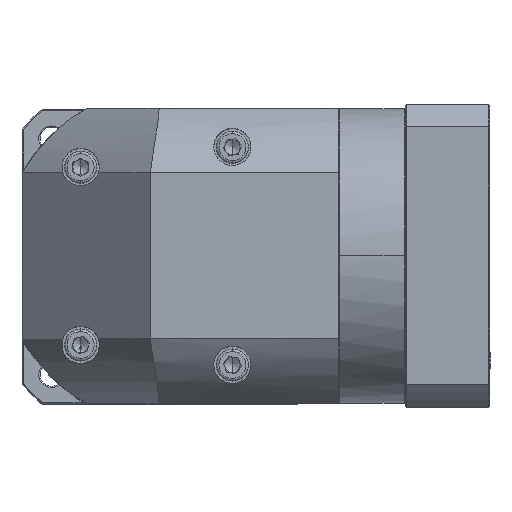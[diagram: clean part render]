
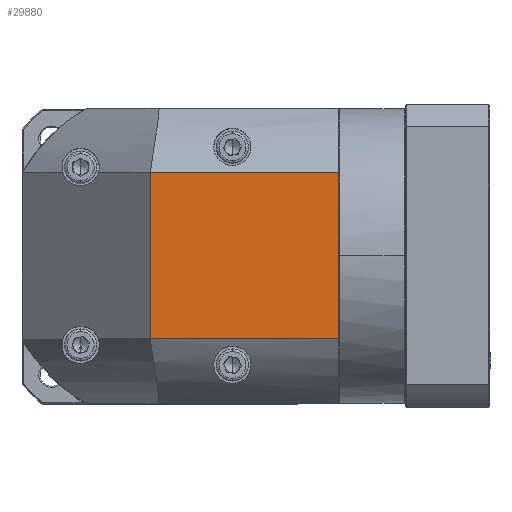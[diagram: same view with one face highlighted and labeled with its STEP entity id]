
A CAD part, top view. The second image highlights one B-rep face of the part: STEP entity #29880.
In plain terms, the highlighted planar face has unit normal (0, 0, 1).
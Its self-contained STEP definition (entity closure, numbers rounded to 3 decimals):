
#550 = EDGE_CURVE ( 'NONE', #39956, #18029, #741, .T. ) ;
#741 = LINE ( 'NONE', #135947, #110922 ) ;
#2988 = ORIENTED_EDGE ( 'NONE', *, *, #53925, .F. ) ;
#5327 = EDGE_CURVE ( 'NONE', #18029, #65248, #33939, .T. ) ;
#5473 = VECTOR ( 'NONE', #71452, 1000. ) ;
#6897 = CARTESIAN_POINT ( 'NONE',  ( -171.735, 18.22, 309.502 ) ) ;
#8352 = CARTESIAN_POINT ( 'NONE',  ( -164.235, -39.28, 309.502 ) ) ;
#12082 = VECTOR ( 'NONE', #30438, 1000. ) ;
#18029 = VERTEX_POINT ( 'NONE', #80682 ) ;
#19606 = PLANE ( 'NONE',  #123242 ) ;
#22136 = LINE ( 'NONE', #135872, #12082 ) ;
#29880 = ADVANCED_FACE ( 'NONE', ( #45834 ), #19606, .F. ) ;
#30438 = DIRECTION ( 'NONE',  ( -1., 0., 0. ) ) ;
#33939 = LINE ( 'NONE', #135397, #5473 ) ;
#39956 = VERTEX_POINT ( 'NONE', #52867 ) ;
#45834 = FACE_OUTER_BOUND ( 'NONE', #87030, .T. ) ;
#52112 = ORIENTED_EDGE ( 'NONE', *, *, #550, .F. ) ;
#52867 = CARTESIAN_POINT ( 'NONE',  ( -171.735, -6.88, 309.502 ) ) ;
#53925 = EDGE_CURVE ( 'NONE', #126279, #39956, #114397, .T. ) ;
#54915 = EDGE_CURVE ( 'NONE', #65248, #126279, #22136, .T. ) ;
#63732 = CARTESIAN_POINT ( 'NONE',  ( -98.335, -71.68, 309.502 ) ) ;
#65248 = VERTEX_POINT ( 'NONE', #63732 ) ;
#71452 = DIRECTION ( 'NONE',  ( 0., -1., 0. ) ) ;
#80682 = CARTESIAN_POINT ( 'NONE',  ( -98.335, -6.88, 309.502 ) ) ;
#81522 = DIRECTION ( 'NONE',  ( 0., 1., 0. ) ) ;
#87030 = EDGE_LOOP ( 'NONE', ( #52112, #2988, #125123, #137546 ) ) ;
#92652 = VECTOR ( 'NONE', #81522, 1000. ) ;
#107262 = DIRECTION ( 'NONE',  ( 0., 0., -1. ) ) ;
#107703 = CARTESIAN_POINT ( 'NONE',  ( -171.735, -71.68, 309.502 ) ) ;
#110922 = VECTOR ( 'NONE', #124754, 1000. ) ;
#114397 = LINE ( 'NONE', #6897, #92652 ) ;
#123242 = AXIS2_PLACEMENT_3D ( 'NONE', #8352, #107262, #129210 ) ;
#124754 = DIRECTION ( 'NONE',  ( 1., 0., 0. ) ) ;
#125123 = ORIENTED_EDGE ( 'NONE', *, *, #54915, .F. ) ;
#126279 = VERTEX_POINT ( 'NONE', #107703 ) ;
#129210 = DIRECTION ( 'NONE',  ( 0., -1., 0. ) ) ;
#135397 = CARTESIAN_POINT ( 'NONE',  ( -98.335, 18.22, 309.502 ) ) ;
#135872 = CARTESIAN_POINT ( 'NONE',  ( -221.735, -71.68, 309.502 ) ) ;
#135947 = CARTESIAN_POINT ( 'NONE',  ( -221.735, -6.88, 309.502 ) ) ;
#137546 = ORIENTED_EDGE ( 'NONE', *, *, #5327, .F. ) ;
